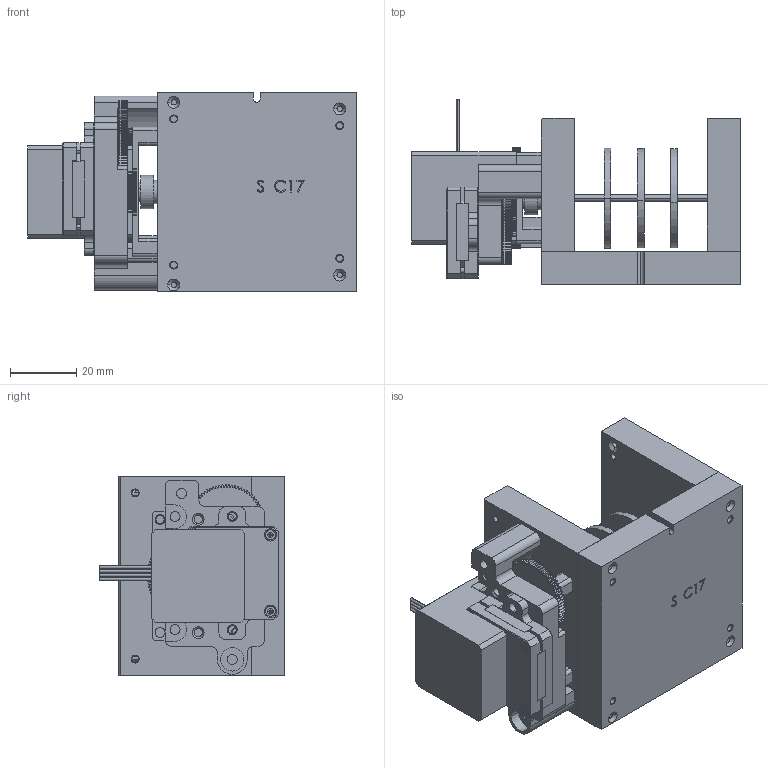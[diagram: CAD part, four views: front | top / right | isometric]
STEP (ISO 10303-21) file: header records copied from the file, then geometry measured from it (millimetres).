
FILE_DESCRIPTION (( 'STEP AP214' ), '1' );
FILE_NAME ('Assieme sezione gruppo Sud.STEP', '2016-02-27T13:06:52', ( '' ), ( '' ), 'SwSTEP 2.0', 'SolidWorks 2012', '' );
FILE_SCHEMA (( 'AUTOMOTIVE_DESIGN' ));
Length unit declared in the file: millimetre
Products named in the file (29): Assieme sezione gruppo Sud; spur gear_iso_ISO - Spur gear 0.3M 100T 20PA 2.5FW ---S100A75H50L4.0N; Frontplatte_STF2818X0504; radial ball bearing_68_skf_SKF - 623 - 8,SI,NC,8_68; flngia pamoco; motore step STF2818X0504; raccordo motore trascinato; Stator_STF2818X0504; Assieme platina NordSud; Endplatte_STF2818X0504; spur gear_iso_ISO - Spur gear 0.3M 25T 20PA 2.5FW ---S25A75H50L3.0N; Assieme mot Pamoco e flangia; spur gear_iso_ISO - Spur gear 0.3M 75T 20PA 2.5FW ---S75A75H50L4.0N; spur gear_iso_ISO - Spur gear 0.3M 20T 20PA 2.5FW ---S20A75H50L2.0N; platina riduttore_3; motore pamoco serie28; C15_N; instrument ball bearing_68_am_AFBMA 12.1.4.1 - 0020-6 - 8,SI,NC,8_68; ass SUD dis_mot oriz; alberino D-N-S; C10; Welle_STF2818X0504; ISO 7046-1 Z M1,6 x 8 - 4.8 - Z; pernetto centrale; pernetto rinvio; C9; C8; C16; C17_N
Assembly tree (34 placements, depth 4):
  Assieme sezione gruppo Sud
    C16
    C17_N
    C15_N
    ass SUD dis_mot oriz
      C8
      C9
      C10
      alberino D-N-S
    instrument ball bearing_68_am_AFBMA 12.1.4.1 - 0020-6 - 8,SI,NC,8_68  x2
    Assieme mot Pamoco e flangia
      flngia pamoco
      motore pamoco serie28
    Assieme platina NordSud
      platina riduttore_3
      pernetto rinvio
      pernetto centrale
      spur gear_iso_ISO - Spur gear 0.3M 20T 20PA 2.5FW ---S20A75H50L2.0N
      spur gear_iso_ISO - Spur gear 0.3M 75T 20PA 2.5FW ---S75A75H50L4.0N
      spur gear_iso_ISO - Spur gear 0.3M 100T 20PA 2.5FW ---S100A75H50L4.0N
      radial ball bearing_68_skf_SKF - 623 - 8,SI,NC,8_68  x2
      instrument ball bearing_68_am_AFBMA 12.1.4.1 - 0020-6 - 8,SI,NC,8_68
      spur gear_iso_ISO - Spur gear 0.3M 25T 20PA 2.5FW ---S25A75H50L3.0N
      motore step STF2818X0504
        Frontplatte_STF2818X0504
        Stator_STF2818X0504
        Endplatte_STF2818X0504
        Welle_STF2818X0504
        ISO 7046-1 Z M1,6 x 8 - 4.8 - Z  x4
    raccordo motore trascinato
Bounding box: 99 x 55.78 x 60 mm (x, y, z)
Volume: 138078.5 mm3; surface area: 58232.5 mm2
Topology: 31 solids, 31 shells, 2172 faces, 5850 edges, 3802 vertices
Faces by surface type: cylinder 1276, plane 460, cone 242, bspline 134, torus 60
Entity records: 75491 total; most frequent: CARTESIAN_POINT 21087, DIRECTION 11289, ORIENTED_EDGE 10454, EDGE_CURVE 5227, AXIS2_PLACEMENT_3D 4514, VERTEX_POINT 3412, CIRCLE 2666, LINE 2261
